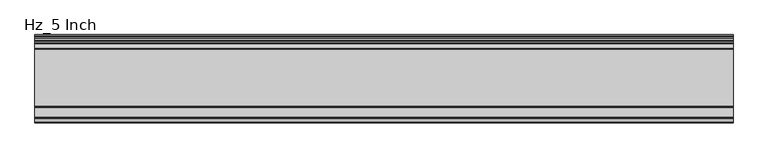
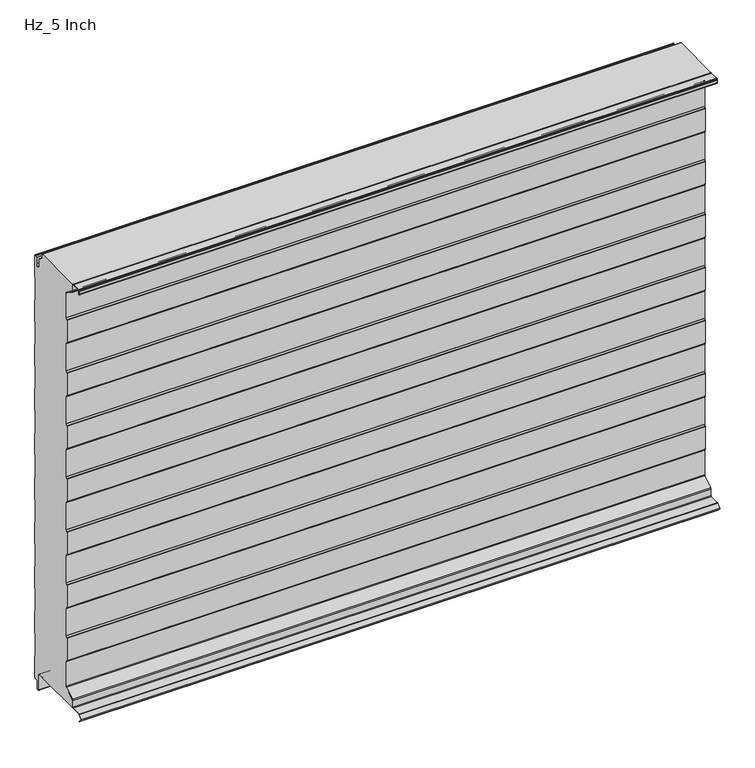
"""IFC4 building model written with IfcOpenShell, lengths in millimetres: plate geometry, KIP_R19_CP_KingSeam_Hz_Roof Panel : Hz_5 Inch."""

import ifcopenshell
import ifcopenshell.guid

model = None  # the IFC model being written
_history = None  # IfcOwnerHistory: only IFC2X3 demands one
_inside = {}  # id of a spatial element -> (the spatial element, [elements in it])
_under = {}  # id of a project, library or spatial element -> (it, [spatial elements below it])
_declared = {}  # id of a project -> (the project, [libraries it declares])
_typed = {}  # id of a type object -> (the type object, [elements of that type])
_made_of = {}  # id of a material, layer set ... -> (it, [elements and type objects made of it])


def new_model(schema):
    """Start an empty IFC model of exactly this schema.

    Asked for "IFC4X3", IfcOpenShell would pick the latest addendum, in which some entities
    have other attributes; the version numbers below select the first issue.
    IFC2X3 requires an IfcOwnerHistory on every rooted entity: one is made here for all.
    """
    global model, _history
    if schema == "IFC4X3":
        model = ifcopenshell.file(schema_version=(4, 3, 0, 0))
    else:
        model = ifcopenshell.file(schema=schema)
    _inside.clear()
    _under.clear()
    _declared.clear()
    _typed.clear()
    _made_of.clear()
    _history = None
    if model.schema == "IFC2X3":
        org = make("IfcOrganization", Name="unknown")
        user = make(
            "IfcPersonAndOrganization",
            ThePerson=make("IfcPerson", FamilyName="unknown"),
            TheOrganization=org,
        )
        app = make(
            "IfcApplication",
            ApplicationDeveloper=org,
            Version="unknown",
            ApplicationFullName="unknown",
            ApplicationIdentifier="unknown",
        )
        _history = make(
            "IfcOwnerHistory",
            OwningUser=user,
            OwningApplication=app,
            ChangeAction="ADDED",
            CreationDate=0,
        )
    return model


def make(cls, **values):
    """One entity of the class cls with the attributes given. An attribute that is None is left unset."""
    return model.create_entity(
        cls, **{name: value for name, value in values.items() if value is not None}
    )


def rooted(cls, **values):
    """An entity with a GlobalId (a new one), such as an element, a storey or a relation."""
    return make(cls, GlobalId=ifcopenshell.guid.new(), OwnerHistory=_history, **values)


def si_unit(unit_type, name, prefix=None):
    """IfcSIUnit, for example si_unit("LENGTHUNIT", "METRE", prefix="MILLI")."""
    return make("IfcSIUnit", UnitType=unit_type, Prefix=prefix, Name=name)


def assignment(units):
    """IfcUnitAssignment: the units of a project."""
    return None if units is None else make("IfcUnitAssignment", Units=units)


def point(xyz):
    """IfcCartesianPoint."""
    return None if xyz is None else make("IfcCartesianPoint", Coordinates=xyz)


def direction(xyz):
    """IfcDirection."""
    return None if xyz is None else make("IfcDirection", DirectionRatios=xyz)


def frame(location, z_axis=None, x_axis=None):
    """IfcAxis2Placement3D, a coordinate frame: its origin and axes. An axis left out is left unset."""
    return make(
        "IfcAxis2Placement3D",
        Location=point(location),
        Axis=direction(z_axis),
        RefDirection=direction(x_axis),
    )


def frame_2d(location, x_axis=None):
    """IfcAxis2Placement2D, a coordinate frame in the plane: its origin and x axis."""
    return make(
        "IfcAxis2Placement2D", Location=point(location), RefDirection=direction(x_axis)
    )


def origin():
    """The frame at (0, 0, 0) with its axes left unset."""
    return frame((0.0, 0.0, 0.0))


def place(relative_to, where):
    """IfcLocalPlacement: puts the frame where relative to a parent placement (None: the world)."""
    return make(
        "IfcLocalPlacement", PlacementRelTo=relative_to, RelativePlacement=where
    )


def context(
    kind, dimensions, precision=None, world=None, true_north=None, identifier=None
):
    """IfcGeometricRepresentationContext, for example the 3D "Model" context."""
    return make(
        "IfcGeometricRepresentationContext",
        ContextIdentifier=identifier,
        ContextType=kind,
        CoordinateSpaceDimension=dimensions,
        Precision=precision,
        WorldCoordinateSystem=world,
        TrueNorth=true_north,
    )


def project(units=None, contexts=None):
    """IfcProject with its units and contexts."""
    return rooted(
        "IfcProject",
        Name="project",
        RepresentationContexts=contexts,
        UnitsInContext=assignment(units),
    )


def spatial(cls, under=None, at=None, **own):
    """A site, building, storey or space (cls), placed at a placement, below another one or the project."""
    s = rooted(cls, ObjectPlacement=at, **own)
    if under is not None:
        _under.setdefault(under.id(), (under, []))[1].append(s)
    return s


def polyline(points):
    """IfcPolyline through the points."""
    return make("IfcPolyline", Points=[point(p) for p in points])


def circle_curve(where, radius):
    """IfcCircle in the frame where."""
    return make("IfcCircle", Position=where, Radius=radius)


def trimmed(basis, trim1, trim2, sense, master):
    """IfcTrimmedCurve: the piece of a basis curve between two trims."""
    return make(
        "IfcTrimmedCurve",
        BasisCurve=basis,
        Trim1=trim1,
        Trim2=trim2,
        SenseAgreement=sense,
        MasterRepresentation=master,
    )


def segment(curve, same_sense, transition):
    """IfcCompositeCurveSegment."""
    return make(
        "IfcCompositeCurveSegment",
        Transition=transition,
        SameSense=same_sense,
        ParentCurve=curve,
    )


def composite_curve(segments, self_intersect=None):
    """IfcCompositeCurve: segments joined end to end."""
    return make("IfcCompositeCurve", Segments=segments, SelfIntersect=self_intersect)


def outline(outer, holes=None, kind="AREA"):
    """IfcArbitraryClosedProfileDef: a profile drawn as a closed curve; with holes, ...WithVoids."""
    if holes is None:
        return make("IfcArbitraryClosedProfileDef", ProfileType=kind, OuterCurve=outer)
    return make(
        "IfcArbitraryProfileDefWithVoids",
        ProfileType=kind,
        OuterCurve=outer,
        InnerCurves=holes,
    )


def extrude(swept, where, along, depth):
    """IfcExtrudedAreaSolid: the profile swept, set in the frame where, extruded along a direction by depth."""
    return make(
        "IfcExtrudedAreaSolid",
        SweptArea=swept,
        Position=where,
        ExtrudedDirection=direction(along),
        Depth=depth,
    )


def shape(context_of_items, identifier, shape_type, items):
    """IfcShapeRepresentation: the items that make up one representation, for example the "Body"."""
    return make(
        "IfcShapeRepresentation",
        ContextOfItems=context_of_items,
        RepresentationIdentifier=identifier,
        RepresentationType=shape_type,
        Items=items,
    )


def source(mapping_origin, context_of_items, identifier, shape_type, items):
    """IfcRepresentationMap: a shape defined once, which mapped items show again and again."""
    return make(
        "IfcRepresentationMap",
        MappingOrigin=mapping_origin,
        MappedRepresentation=shape(context_of_items, identifier, shape_type, items),
    )


def transform(
    local_origin,
    x_axis=None,
    y_axis=None,
    z_axis=None,
    scale=None,
    scale2=None,
    scale3=None,
    uniform=True,
):
    """IfcCartesianTransformationOperator3D, or its non-uniform kind. x_axis, y_axis, z_axis: its Axis1, 2, 3."""
    if uniform:
        return make(
            "IfcCartesianTransformationOperator3D",
            Axis1=direction(x_axis),
            Axis2=direction(y_axis),
            LocalOrigin=point(local_origin),
            Scale=scale,
            Axis3=direction(z_axis),
        )
    return make(
        "IfcCartesianTransformationOperator3DnonUniform",
        Axis1=direction(x_axis),
        Axis2=direction(y_axis),
        LocalOrigin=point(local_origin),
        Scale=scale,
        Axis3=direction(z_axis),
        Scale2=scale2,
        Scale3=scale3,
    )


def mapped(mapping_source, mapping_target):
    """IfcMappedItem: shows the shape of a source again, moved by a transform."""
    return make(
        "IfcMappedItem", MappingSource=mapping_source, MappingTarget=mapping_target
    )


def made_of(thing, what):
    """Note that an element or type object is made of a material, layer set ...; save() writes the relation."""
    if what is not None:
        _made_of.setdefault(what.id(), (what, []))[1].append(thing)
    return thing


def element(
    cls,
    number,
    at=None,
    inside=None,
    cuts=None,
    type_object=None,
    material=None,
    context=None,
    identifier="Body",
    shape_type=None,
    held_by="IfcProductDefinitionShape",
    body=None,
    shapes=None,
    **own,
):
    """One element of the class cls, such as IfcWall. Its Tag is "e" and its number.

    at: its placement. inside: the storey or other place that contains it. cuts: it is an
    opening in that element (IfcRelVoidsElement). A single representation is given by context,
    identifier, shape_type and body (its items); several are given by shapes. held_by: the class
    of the entity that holds the representations. save() writes the other relations.
    """
    e = rooted(cls, Tag="e%d" % number, ObjectPlacement=at, **own)
    if body is not None:
        shapes = [shape(context, identifier, shape_type, body)]
    if shapes is not None:
        e.Representation = make(held_by, Representations=shapes)
    if inside is not None:
        _inside.setdefault(inside.id(), (inside, []))[1].append(e)
    if cuts is not None:
        rooted(
            "IfcRelVoidsElement", RelatingBuildingElement=cuts, RelatedOpeningElement=e
        )
    if type_object is not None:
        _typed.setdefault(type_object.id(), (type_object, []))[1].append(e)
    return made_of(e, material)


def aggregate(whole, parts):
    """IfcRelAggregates: a whole, such as a stair, and the parts it consists of."""
    return rooted("IfcRelAggregates", RelatingObject=whole, RelatedObjects=parts)


def save(model, path):
    """Write the relations noted so far, then the file.

    IfcRelAggregates (storeys below a building ...), IfcRelContainedInSpatialStructure (elements
    in a storey), IfcRelDefinesByType, IfcRelAssociatesMaterial and IfcRelDeclares: one each for
    every whole, place, type object, material and project.
    """
    for whole, parts in _under.values():
        aggregate(whole, parts)
    for where, things in _inside.values():
        rooted(
            "IfcRelContainedInSpatialStructure",
            RelatedElements=things,
            RelatingStructure=where,
        )
    for kind, things in _typed.values():
        rooted("IfcRelDefinesByType", RelatedObjects=things, RelatingType=kind)
    for what, things in _made_of.values():
        rooted("IfcRelAssociatesMaterial", RelatedObjects=things, RelatingMaterial=what)
    for by, libraries in _declared.values():
        rooted("IfcRelDeclares", RelatingContext=by, RelatedDefinitions=libraries)
    model.write(path)


def hz_5_inch_b71508c2(model_context):
    return source(origin(), model_context, "Body", "SweptSolid", [
        extrude(outline(composite_curve([segment(polyline([(-126.7158093, 535.7535265), (-124.2158809, 539.2132218), (-124.2158809, 603.7867783), (-126.715809, 607.2464732)]), True, "CONTINUOUS"), segment(trimmed(circle_curve(frame_2d((-125.5000003, 608.1249998)), 1.4999999), [point((-126.715809, 607.2464732))], [point((-127.0000002, 608.1249998))], False, "CARTESIAN"), True, "CONTINUOUS"), segment(polyline([(-127.0000002, 608.1249998), (-127.0000003, 661.8749998)]), True, "CONTINUOUS"), segment(trimmed(circle_curve(frame_2d((-125.5000002, 661.8749998)), 1.5), [point((-127.0000003, 661.8749998))], [point((-126.7158089, 662.7535266))], False, "CARTESIAN"), True, "CONTINUOUS"), segment(polyline([(-126.7158089, 662.7535266), (-124.2158807, 666.2132214), (-124.2158807, 730.7867783), (-126.715809, 734.246473)]), True, "CONTINUOUS"), segment(trimmed(circle_curve(frame_2d((-125.5000003, 735.1249998)), 1.5000001), [point((-126.715809, 734.246473))], [point((-127.0000004, 735.1249998))], False, "CARTESIAN"), True, "CONTINUOUS"), segment(polyline([(-127.0000004, 735.1249998), (-127.0000004, 788.8749998)]), True, "CONTINUOUS"), segment(trimmed(circle_curve(frame_2d((-125.5000005, 788.8749998)), 1.4999999), [point((-127.0000004, 788.8749998))], [point((-126.7158091, 789.7535265))], False, "CARTESIAN"), True, "CONTINUOUS"), segment(polyline([(-126.7158091, 789.7535265), (-124.2158803, 793.2132223), (-124.2158803, 857.7867782), (-126.7158086, 861.246473)]), True, "CONTINUOUS"), segment(trimmed(circle_curve(frame_2d((-125.4999999, 862.1249998)), 1.5000001), [point((-126.7158086, 861.246473))], [point((-127.0, 862.1249998))], False, "CARTESIAN"), True, "CONTINUOUS"), segment(polyline([(-127.0, 862.1249998), (-127.0, 915.8749998)]), True, "CONTINUOUS"), segment(trimmed(circle_curve(frame_2d((-125.5000001, 915.8749998)), 1.4999999), [point((-127.0, 915.8749998))], [point((-126.7158088, 916.7535264))], False, "CARTESIAN"), True, "CONTINUOUS"), segment(polyline([(-126.7158088, 916.7535264), (-124.2158808, 920.2132216), (-124.2158808, 979.387149)]), True, "CONTINUOUS"), segment(trimmed(circle_curve(frame_2d((-126.7158808, 979.387149)), 2.5), [point((-124.2158808, 979.387149))], [point((-125.3365754, 981.4722189))], True, "CARTESIAN"), True, "CONTINUOUS"), segment(polyline([(-125.3365754, 981.4722189), (-148.3193251, 996.6756573)]), True, "CONTINUOUS"), segment(trimmed(circle_curve(frame_2d((-147.2158808, 998.3437132)), 2.0), [point((-148.3193251, 996.6756573))], [point((-149.2158808, 998.3437132))], False, "CARTESIAN"), True, "CONTINUOUS"), segment(polyline([(-149.2158808, 998.3437132), (-149.2158808, 1013.8999998)]), True, "CONTINUOUS"), segment(trimmed(circle_curve(frame_2d((-151.3158808, 1013.8999998)), 2.1), [point((-149.2158808, 1013.8999998))], [point((-151.3158808, 1015.9999998))], True, "CARTESIAN"), True, "CONTINUOUS"), segment(polyline([(-151.3158808, 1015.9999998), (-31.9999994, 1015.9999998), (-31.9999994, 1015.1999999), (-30.7664368, 1015.1999999)]), True, "CONTINUOUS"), segment(trimmed(circle_curve(frame_2d((-30.7664368, 1014.1999999)), 1.0), [point((-30.7664368, 1015.1999999))], [point((-29.7664368, 1014.1999999))], False, "CARTESIAN"), True, "CONTINUOUS"), segment(polyline([(-29.7664368, 1014.1999999), (-29.7664368, 1004.6085617)]), True, "CONTINUOUS"), segment(trimmed(circle_curve(frame_2d((-27.7664368, 1004.6085617)), 2.0), [point((-29.7664368, 1004.6085617))], [point((-28.7691573, 1002.8780844))], True, "CARTESIAN"), True, "CONTINUOUS"), segment(polyline([(-28.7691573, 1002.8780844), (-18.9986392, 997.2165837)]), True, "CONTINUOUS"), segment(trimmed(circle_curve(frame_2d((-19.4999994, 996.351345)), 1.0), [point((-18.9986392, 997.2165837))], [point((-18.4999994, 996.351345))], False, "CARTESIAN"), True, "CONTINUOUS"), segment(polyline([(-18.4999994, 996.351345), (-18.4999994, 979.25)]), True, "CONTINUOUS"), segment(trimmed(circle_curve(frame_2d((-13.7499994, 979.25)), 4.75), [point((-18.4999994, 979.25))], [point((-13.7499994, 974.5))], True, "CARTESIAN"), True, "CONTINUOUS"), segment(polyline([(-13.7499994, 974.5), (-12.2499994, 974.5)]), True, "CONTINUOUS"), segment(trimmed(circle_curve(frame_2d((-12.2499994, 979.25)), 4.75), [point((-12.2499994, 974.5))], [point((-7.4999994, 979.25))], True, "CARTESIAN"), True, "CONTINUOUS"), segment(polyline([(-7.4999994, 979.25), (-7.4999994, 994.2157998)]), True, "CONTINUOUS"), segment(trimmed(circle_curve(frame_2d((-4.9999994, 994.2157998)), 2.5), [point((-7.4999994, 994.2157998))], [point((-4.9999994, 996.7157998))], False, "CARTESIAN"), True, "CONTINUOUS"), segment(polyline([(-4.9999994, 996.7157998), (-2.9999994, 996.7157998)]), True, "CONTINUOUS"), segment(trimmed(circle_curve(frame_2d((-2.8161919, 994.6595504)), 2.0644483), [point((-2.9999994, 996.7157998))], [point((-0.7999994, 994.2157998))], False, "CARTESIAN"), True, "CONTINUOUS"), segment(polyline([(-0.7999994, 994.2157998), (-0.7999994, 944.4584772)]), True, "CONTINUOUS"), segment(trimmed(circle_curve(frame_2d((-3.1999994, 944.4584772)), 2.4), [point((-0.7999994, 944.4584772))], [point((-0.9968117, 943.5066559))], False, "CARTESIAN"), True, "CONTINUOUS"), segment(polyline([(-0.9968117, 943.5066559), (-2.0293826, 941.1165567)]), True, "CONTINUOUS"), segment(trimmed(circle_curve(frame_2d((1.0000006, 939.8078024)), 3.3), [point((-2.0293826, 941.1165567))], [point((-2.2999994, 939.8078024))], True, "CARTESIAN"), True, "CONTINUOUS"), segment(polyline([(-2.2999994, 939.8078024), (-2.2999994, 891.4237972)]), True, "CONTINUOUS"), segment(trimmed(circle_curve(frame_2d((1.0000006, 891.4237972)), 3.3), [point((-2.2999994, 891.4237972))], [point((-2.0293826, 890.1150429))], True, "CARTESIAN"), True, "CONTINUOUS"), segment(polyline([(-2.0293826, 890.1150429), (-0.9968117, 887.7249437)]), True, "CONTINUOUS"), segment(trimmed(circle_curve(frame_2d((-3.1999994, 886.7731223)), 2.4), [point((-0.9968117, 887.7249437))], [point((-0.7999994, 886.7731223))], False, "CARTESIAN"), True, "CONTINUOUS"), segment(polyline([(-0.7999994, 886.7731223), (-0.7999994, 837.8584772)]), True, "CONTINUOUS"), segment(trimmed(circle_curve(frame_2d((-3.1999994, 837.8584772)), 2.4), [point((-0.7999994, 837.8584772))], [point((-0.9968117, 836.9066559))], False, "CARTESIAN"), True, "CONTINUOUS"), segment(polyline([(-0.9968117, 836.9066559), (-2.0293826, 834.5165567)]), True, "CONTINUOUS"), segment(trimmed(circle_curve(frame_2d((1.0000006, 833.2078024)), 3.3), [point((-2.0293826, 834.5165567))], [point((-2.2999994, 833.2078024))], True, "CARTESIAN"), True, "CONTINUOUS"), segment(polyline([(-2.2999994, 833.2078024), (-2.2999994, 784.8237972)]), True, "CONTINUOUS"), segment(trimmed(circle_curve(frame_2d((1.0000006, 784.8237972)), 3.3), [point((-2.2999994, 784.8237972))], [point((-2.0293826, 783.5150429))], True, "CARTESIAN"), True, "CONTINUOUS"), segment(polyline([(-2.0293826, 783.5150429), (-0.9968117, 781.1249437)]), True, "CONTINUOUS"), segment(trimmed(circle_curve(frame_2d((-3.1999994, 780.1731223)), 2.4), [point((-0.9968117, 781.1249437))], [point((-0.7999994, 780.1731223))], False, "CARTESIAN"), True, "CONTINUOUS"), segment(polyline([(-0.7999994, 780.1731223), (-0.7999994, 731.2584772)]), True, "CONTINUOUS"), segment(trimmed(circle_curve(frame_2d((-3.1999994, 731.2584772)), 2.4), [point((-0.7999994, 731.2584772))], [point((-0.9968117, 730.3066559))], False, "CARTESIAN"), True, "CONTINUOUS"), segment(polyline([(-0.9968117, 730.3066559), (-2.0293826, 727.9165567)]), True, "CONTINUOUS"), segment(trimmed(circle_curve(frame_2d((1.0000006, 726.6078024)), 3.3), [point((-2.0293826, 727.9165567))], [point((-2.2999994, 726.6078024))], True, "CARTESIAN"), True, "CONTINUOUS"), segment(polyline([(-2.2999994, 726.6078024), (-2.2999994, 678.2237972)]), True, "CONTINUOUS"), segment(trimmed(circle_curve(frame_2d((1.0000006, 678.2237972)), 3.3), [point((-2.2999994, 678.2237972))], [point((-2.0293826, 676.9150429))], True, "CARTESIAN"), True, "CONTINUOUS"), segment(polyline([(-2.0293826, 676.9150429), (-0.9968117, 674.5249437)]), True, "CONTINUOUS"), segment(trimmed(circle_curve(frame_2d((-3.1999994, 673.5731223)), 2.4), [point((-0.9968117, 674.5249437))], [point((-0.7999994, 673.5731223))], False, "CARTESIAN"), True, "CONTINUOUS"), segment(polyline([(-0.7999994, 673.5731223), (-0.7999994, 624.6584772)]), True, "CONTINUOUS"), segment(trimmed(circle_curve(frame_2d((-3.1999994, 624.6584772)), 2.4), [point((-0.7999994, 624.6584772))], [point((-0.9968117, 623.7066559))], False, "CARTESIAN"), True, "CONTINUOUS"), segment(polyline([(-0.9968117, 623.7066559), (-2.0293826, 621.3165567)]), True, "CONTINUOUS"), segment(trimmed(circle_curve(frame_2d((1.0000006, 620.0078024)), 3.3), [point((-2.0293826, 621.3165567))], [point((-2.2999994, 620.0078024))], True, "CARTESIAN"), True, "CONTINUOUS"), segment(polyline([(-2.2999994, 620.0078024), (-2.2999994, 571.6237972)]), True, "CONTINUOUS"), segment(trimmed(circle_curve(frame_2d((1.0000006, 571.6237972)), 3.3), [point((-2.2999994, 571.6237972))], [point((-2.0293826, 570.3150429))], True, "CARTESIAN"), True, "CONTINUOUS"), segment(polyline([(-2.0293826, 570.3150429), (-0.9968117, 567.9249437)]), True, "CONTINUOUS"), segment(trimmed(circle_curve(frame_2d((-3.1999994, 566.9731223)), 2.4), [point((-0.9968117, 567.9249437))], [point((-0.7999994, 566.9731223))], False, "CARTESIAN"), True, "CONTINUOUS"), segment(polyline([(-0.7999994, 566.9731223), (-0.7999994, 518.0584772)]), True, "CONTINUOUS"), segment(trimmed(circle_curve(frame_2d((-3.1999994, 518.0584772)), 2.4), [point((-0.7999994, 518.0584772))], [point((-0.9968117, 517.1066559))], False, "CARTESIAN"), True, "CONTINUOUS"), segment(polyline([(-0.9968117, 517.1066559), (-2.0293826, 514.7165567)]), True, "CONTINUOUS"), segment(trimmed(circle_curve(frame_2d((1.0000006, 513.4078024)), 3.3), [point((-2.0293826, 514.7165567))], [point((-2.2999994, 513.4078024))], True, "CARTESIAN"), True, "CONTINUOUS"), segment(polyline([(-2.2999994, 513.4078024), (-2.2999994, 465.0237972)]), True, "CONTINUOUS"), segment(trimmed(circle_curve(frame_2d((1.0000006, 465.0237972)), 3.3), [point((-2.2999994, 465.0237972))], [point((-2.0293826, 463.7150429))], True, "CARTESIAN"), True, "CONTINUOUS"), segment(polyline([(-2.0293826, 463.7150429), (-0.9968117, 461.3249437)]), True, "CONTINUOUS"), segment(trimmed(circle_curve(frame_2d((-3.1999994, 460.3731223)), 2.4), [point((-0.9968117, 461.3249437))], [point((-0.7999994, 460.3731223))], False, "CARTESIAN"), True, "CONTINUOUS"), segment(polyline([(-0.7999994, 460.3731223), (-0.7999994, 411.4584772)]), True, "CONTINUOUS"), segment(trimmed(circle_curve(frame_2d((-3.1999994, 411.4584772)), 2.4), [point((-0.7999994, 411.4584772))], [point((-0.9968117, 410.5066559))], False, "CARTESIAN"), True, "CONTINUOUS"), segment(polyline([(-0.9968117, 410.5066559), (-2.0293826, 408.1165567)]), True, "CONTINUOUS"), segment(trimmed(circle_curve(frame_2d((1.0000006, 406.8078024)), 3.3), [point((-2.0293826, 408.1165567))], [point((-2.2999994, 406.8078024))], True, "CARTESIAN"), True, "CONTINUOUS"), segment(polyline([(-2.2999994, 406.8078024), (-2.2999994, 358.4237972)]), True, "CONTINUOUS"), segment(trimmed(circle_curve(frame_2d((1.0000006, 358.4237972)), 3.3), [point((-2.2999994, 358.4237972))], [point((-2.0293826, 357.1150429))], True, "CARTESIAN"), True, "CONTINUOUS"), segment(polyline([(-2.0293826, 357.1150429), (-0.9968117, 354.7249437)]), True, "CONTINUOUS"), segment(trimmed(circle_curve(frame_2d((-3.1999994, 353.7731223)), 2.4), [point((-0.9968117, 354.7249437))], [point((-0.7999994, 353.7731223))], False, "CARTESIAN"), True, "CONTINUOUS"), segment(polyline([(-0.7999994, 353.7731223), (-0.7999994, 304.8584772)]), True, "CONTINUOUS"), segment(trimmed(circle_curve(frame_2d((-3.1999994, 304.8584772)), 2.4), [point((-0.7999994, 304.8584772))], [point((-0.9968117, 303.9066559))], False, "CARTESIAN"), True, "CONTINUOUS"), segment(polyline([(-0.9968117, 303.9066559), (-2.0293826, 301.5165567)]), True, "CONTINUOUS"), segment(trimmed(circle_curve(frame_2d((1.0000006, 300.2078024)), 3.3), [point((-2.0293826, 301.5165567))], [point((-2.2999994, 300.2078024))], True, "CARTESIAN"), True, "CONTINUOUS"), segment(polyline([(-2.2999994, 300.2078024), (-2.2999994, 251.8237972)]), True, "CONTINUOUS"), segment(trimmed(circle_curve(frame_2d((1.0000006, 251.8237972)), 3.3), [point((-2.2999994, 251.8237972))], [point((-2.0293826, 250.5150429))], True, "CARTESIAN"), True, "CONTINUOUS"), segment(polyline([(-2.0293826, 250.5150429), (-0.9968117, 248.1249437)]), True, "CONTINUOUS"), segment(trimmed(circle_curve(frame_2d((-3.1999994, 247.1731223)), 2.4), [point((-0.9968117, 248.1249437))], [point((-0.7999994, 247.1731223))], False, "CARTESIAN"), True, "CONTINUOUS"), segment(polyline([(-0.7999994, 247.1731223), (-0.7999994, 198.2584772)]), True, "CONTINUOUS"), segment(trimmed(circle_curve(frame_2d((-3.1999994, 198.2584772)), 2.4), [point((-0.7999994, 198.2584772))], [point((-0.9968117, 197.3066559))], False, "CARTESIAN"), True, "CONTINUOUS"), segment(polyline([(-0.9968117, 197.3066559), (-2.0293826, 194.9165567)]), True, "CONTINUOUS"), segment(trimmed(circle_curve(frame_2d((1.0000006, 193.6078024)), 3.3), [point((-2.0293826, 194.9165567))], [point((-2.2999994, 193.6078024))], True, "CARTESIAN"), True, "CONTINUOUS"), segment(polyline([(-2.2999994, 193.6078024), (-2.2999994, 145.2237972)]), True, "CONTINUOUS"), segment(trimmed(circle_curve(frame_2d((1.0000006, 145.2237972)), 3.3), [point((-2.2999994, 145.2237972))], [point((-2.0293826, 143.9150429))], True, "CARTESIAN"), True, "CONTINUOUS"), segment(polyline([(-2.0293826, 143.9150429), (-0.9968117, 141.5249437)]), True, "CONTINUOUS"), segment(trimmed(circle_curve(frame_2d((-3.1999994, 140.5731223)), 2.4), [point((-0.9968117, 141.5249437))], [point((-0.7999994, 140.5731223))], False, "CARTESIAN"), True, "CONTINUOUS"), segment(polyline([(-0.7999994, 140.5731223), (-0.7999994, 91.6584772)]), True, "CONTINUOUS"), segment(trimmed(circle_curve(frame_2d((-3.1999994, 91.6584772)), 2.4), [point((-0.7999994, 91.6584772))], [point((-0.9968117, 90.7066559))], False, "CARTESIAN"), True, "CONTINUOUS"), segment(polyline([(-0.9968117, 90.7066559), (-2.0293826, 88.3165567)]), True, "CONTINUOUS"), segment(trimmed(circle_curve(frame_2d((1.0000006, 87.0078024)), 3.3), [point((-2.0293826, 88.3165567))], [point((-2.2999994, 87.0078024))], True, "CARTESIAN"), True, "CONTINUOUS"), segment(polyline([(-2.2999994, 87.0078024), (-2.2999994, 38.6237972)]), True, "CONTINUOUS"), segment(trimmed(circle_curve(frame_2d((1.0000006, 38.6237972)), 3.3), [point((-2.2999994, 38.6237972))], [point((-2.0293826, 37.3150429))], True, "CARTESIAN"), True, "CONTINUOUS"), segment(polyline([(-2.0293826, 37.3150429), (-0.9968117, 34.9249437)]), True, "CONTINUOUS"), segment(trimmed(circle_curve(frame_2d((-3.1999994, 33.9731223)), 2.4), [point((-0.9968117, 34.9249437))], [point((-0.7999994, 33.9731223))], False, "CARTESIAN"), True, "CONTINUOUS"), segment(polyline([(-0.7999994, 33.9731223), (-0.7999994, -15.7842002)]), True, "CONTINUOUS"), segment(trimmed(circle_curve(frame_2d((-2.8161919, -16.2279508)), 2.0644483), [point((-0.7999994, -15.7842002))], [point((-2.9999994, -18.2842002))], False, "CARTESIAN"), True, "CONTINUOUS"), segment(polyline([(-2.9999994, -18.2842002), (-6.4999994, -18.2842002)]), True, "CONTINUOUS"), segment(trimmed(circle_curve(frame_2d((-6.4999994, -21.2842002)), 3.0), [point((-6.4999994, -18.2842002))], [point((-9.4999994, -21.2842002))], True, "CARTESIAN"), True, "CONTINUOUS"), segment(polyline([(-9.4999994, -21.2842002), (-9.4999994, -37.0)]), True, "CONTINUOUS"), segment(trimmed(circle_curve(frame_2d((-11.9999994, -37.0)), 2.5), [point((-9.4999994, -37.0))], [point((-11.9999994, -39.5))], False, "CARTESIAN"), True, "CONTINUOUS"), segment(polyline([(-11.9999994, -39.5), (-13.9999994, -39.5)]), True, "CONTINUOUS"), segment(trimmed(circle_curve(frame_2d((-13.9999994, -37.0)), 2.5), [point((-13.9999994, -39.5))], [point((-16.4999994, -37.0))], False, "CARTESIAN"), True, "CONTINUOUS"), segment(polyline([(-16.4999994, -37.0), (-16.4999994, -1.5)]), True, "CONTINUOUS"), segment(trimmed(circle_curve(frame_2d((-18.4999994, -1.5)), 2.0), [point((-16.4999994, -1.5))], [point((-18.4999994, 0.5))], True, "CARTESIAN"), True, "CONTINUOUS"), segment(polyline([(-18.4999994, 0.5), (-29.6999994, 0.5)]), True, "CONTINUOUS"), segment(trimmed(circle_curve(frame_2d((-29.6999994, 2.0)), 1.5), [point((-29.6999994, 0.5))], [point((-31.1999994, 2.0))], False, "CARTESIAN"), True, "CONTINUOUS"), segment(polyline([(-31.1999994, 2.0), (-31.1999994, 9.5), (-31.9999994, 9.5), (-31.9999994, 2.0)]), True, "CONTINUOUS"), segment(trimmed(circle_curve(frame_2d((-29.9999994, 2.0)), 2.0), [point((-31.9999994, 2.0))], [point((-29.9999994, 0.0))], True, "CARTESIAN"), True, "CONTINUOUS"), segment(polyline([(-29.9999994, 0.0), (-151.3158809, 0.0)]), True, "CONTINUOUS"), segment(trimmed(circle_curve(frame_2d((-151.3158809, 2.0999999)), 2.0999999), [point((-151.3158809, 0.0))], [point((-149.2158811, 2.0999999))], True, "CARTESIAN"), True, "CONTINUOUS"), segment(polyline([(-149.2158811, 2.0999999), (-149.2158811, 17.6562865)]), True, "CONTINUOUS"), segment(trimmed(circle_curve(frame_2d((-147.2158811, 17.6562865)), 2.0), [point((-149.2158811, 17.6562865))], [point((-148.3193254, 19.3243424))], False, "CARTESIAN"), True, "CONTINUOUS"), segment(polyline([(-148.3193254, 19.3243424), (-125.3365754, 34.5277806)]), True, "CONTINUOUS"), segment(trimmed(circle_curve(frame_2d((-126.7158809, 36.6128507)), 2.5000002), [point((-125.3365754, 34.5277806))], [point((-124.2158807, 36.6128507))], True, "CARTESIAN"), True, "CONTINUOUS"), segment(polyline([(-124.2158807, 36.6128507), (-124.2158807, 95.7867783), (-126.715809, 99.2464731)]), True, "CONTINUOUS"), segment(trimmed(circle_curve(frame_2d((-125.5000002, 100.1249999)), 1.5000002), [point((-126.715809, 99.2464731))], [point((-127.0000003, 100.1249999))], False, "CARTESIAN"), True, "CONTINUOUS"), segment(polyline([(-127.0000003, 100.1249999), (-127.0000003, 153.8749999)]), True, "CONTINUOUS"), segment(trimmed(circle_curve(frame_2d((-125.5000001, 153.8749999)), 1.5000002), [point((-127.0000003, 153.8749999))], [point((-126.715809, 154.7535268))], False, "CARTESIAN"), True, "CONTINUOUS"), segment(polyline([(-126.715809, 154.7535268), (-124.2158807, 158.2132214), (-124.2158807, 222.7867783), (-126.715809, 226.2464731)]), True, "CONTINUOUS"), segment(trimmed(circle_curve(frame_2d((-125.5000003, 227.1249999)), 1.5000001), [point((-126.715809, 226.2464731))], [point((-127.0000004, 227.1249999))], False, "CARTESIAN"), True, "CONTINUOUS"), segment(polyline([(-127.0000004, 227.1249999), (-127.0000004, 280.8749999)]), True, "CONTINUOUS"), segment(trimmed(circle_curve(frame_2d((-125.5000006, 280.8749999)), 1.4999997), [point((-127.0000004, 280.8749999))], [point((-126.7158092, 281.7535264))], False, "CARTESIAN"), True, "CONTINUOUS"), segment(polyline([(-126.7158092, 281.7535264), (-124.2158809, 285.2132219), (-124.2158809, 349.7867783), (-126.7158092, 353.246473)]), True, "CONTINUOUS"), segment(trimmed(circle_curve(frame_2d((-125.5000005, 354.1249999)), 1.5000001), [point((-126.7158092, 353.246473))], [point((-127.0000006, 354.1249999))], False, "CARTESIAN"), True, "CONTINUOUS"), segment(polyline([(-127.0000006, 354.1249999), (-127.0000006, 407.8749998)]), True, "CONTINUOUS"), segment(trimmed(circle_curve(frame_2d((-125.5000006, 407.8749998)), 1.4999999), [point((-127.0000006, 407.8749998))], [point((-126.7158093, 408.7535265))], False, "CARTESIAN"), True, "CONTINUOUS"), segment(polyline([(-126.7158093, 408.7535265), (-124.2158809, 412.2132218), (-124.2158809, 476.7867783), (-126.7158092, 480.246473)]), True, "CONTINUOUS"), segment(trimmed(circle_curve(frame_2d((-125.5000005, 481.1249999)), 1.5000001), [point((-126.7158092, 480.246473))], [point((-127.0000006, 481.1249999))], False, "CARTESIAN"), True, "CONTINUOUS"), segment(polyline([(-127.0000006, 481.1249999), (-127.0000006, 534.8749998)]), True, "CONTINUOUS"), segment(trimmed(circle_curve(frame_2d((-125.5000006, 534.8749998)), 1.4999999), [point((-127.0000006, 534.8749998))], [point((-126.7158093, 535.7535265))], False, "CARTESIAN"), True, "CONTINUOUS")], self_intersect=False)), frame((-723.9042608, 0.0, 0.0), z_axis=(1.0, 0.0, 0.0), x_axis=(0.0, 1.0, 0.0)), (0.0, 0.0, 1.0), 1447.8085217),
        extrude(outline(composite_curve([segment(polyline([(-127.2158084, 154.7942705), (-124.715881, 158.253964), (-124.715881, 222.8275218), (-127.215809, 226.287217)]), True, "CONTINUOUS"), segment(trimmed(circle_curve(frame_2d((-126.0000005, 227.1657434)), 1.4999996), [point((-127.215809, 226.287217))], [point((-127.4999998, 227.1667148))], False, "CARTESIAN"), True, "CONTINUOUS"), segment(polyline([(-127.4999998, 227.1667148), (-127.4999998, 280.9157434)]), True, "CONTINUOUS"), segment(trimmed(circle_curve(frame_2d((-125.9999998, 280.9157434)), 1.5), [point((-127.4999998, 280.9157434))], [point((-127.2158085, 281.7942702))], False, "CARTESIAN"), True, "CONTINUOUS"), segment(polyline([(-127.2158085, 281.7942702), (-124.7158804, 285.2539647), (-124.7158804, 349.8275216), (-127.2158085, 353.2872165)]), True, "CONTINUOUS"), segment(trimmed(circle_curve(frame_2d((-125.9999998, 354.1657432)), 1.4999999), [point((-127.2158085, 353.2872165))], [point((-127.4999994, 354.1667146))], False, "CARTESIAN"), True, "CONTINUOUS"), segment(polyline([(-127.4999994, 354.1667146), (-127.4999994, 407.9157432)]), True, "CONTINUOUS"), segment(trimmed(circle_curve(frame_2d((-125.9999995, 407.9157432)), 1.4999999), [point((-127.4999994, 407.9157432))], [point((-127.2158082, 408.7942699))], False, "CARTESIAN"), True, "CONTINUOUS"), segment(polyline([(-127.2158082, 408.7942699), (-124.7158804, 412.2539643), (-124.7158804, 476.8275216), (-127.2158085, 480.2872164)]), True, "CONTINUOUS"), segment(trimmed(circle_curve(frame_2d((-125.9999998, 481.1657432)), 1.5), [point((-127.2158085, 480.2872164))], [point((-127.4999995, 481.1667146))], False, "CARTESIAN"), True, "CONTINUOUS"), segment(polyline([(-127.4999995, 481.1667146), (-127.4999995, 534.9157431)]), True, "CONTINUOUS"), segment(trimmed(circle_curve(frame_2d((-125.9999995, 534.9157431)), 1.5), [point((-127.4999995, 534.9157431))], [point((-127.2158082, 535.7942699))], False, "CARTESIAN"), True, "CONTINUOUS"), segment(polyline([(-127.2158082, 535.7942699), (-124.7158804, 539.2539643), (-124.7158804, 603.8275216), (-127.2158085, 607.2872164)]), True, "CONTINUOUS"), segment(trimmed(circle_curve(frame_2d((-125.9999998, 608.1657431)), 1.5), [point((-127.2158085, 607.2872164))], [point((-127.4999995, 608.1667146))], False, "CARTESIAN"), True, "CONTINUOUS"), segment(polyline([(-127.4999995, 608.1667146), (-127.4999995, 661.9157431)]), True, "CONTINUOUS"), segment(trimmed(circle_curve(frame_2d((-125.9999995, 661.9157431)), 1.5), [point((-127.4999995, 661.9157431))], [point((-127.2158082, 662.7942699))], False, "CARTESIAN"), True, "CONTINUOUS"), segment(polyline([(-127.2158082, 662.7942699), (-124.7158804, 666.2539641), (-124.7158804, 730.8275214), (-127.2158087, 734.2872159)]), True, "CONTINUOUS"), segment(trimmed(circle_curve(frame_2d((-125.9999998, 735.1657429)), 1.5000003), [point((-127.2158087, 734.2872159))], [point((-127.4999999, 735.1667144))], False, "CARTESIAN"), True, "CONTINUOUS"), segment(polyline([(-127.4999999, 735.1667144), (-127.4999999, 788.915743)]), True, "CONTINUOUS"), segment(trimmed(circle_curve(frame_2d((-125.9999998, 788.915743)), 1.5), [point((-127.4999999, 788.915743))], [point((-127.2158085, 789.7942697))], False, "CARTESIAN"), True, "CONTINUOUS"), segment(polyline([(-127.2158085, 789.7942697), (-124.7158804, 793.2539644), (-124.7158804, 857.8275212), (-127.2158085, 861.2872162)]), True, "CONTINUOUS"), segment(trimmed(circle_curve(frame_2d((-125.9999999, 862.1657428)), 1.4999999), [point((-127.2158085, 861.2872162))], [point((-127.4999995, 862.1667142))], False, "CARTESIAN"), True, "CONTINUOUS"), segment(polyline([(-127.4999995, 862.1667142), (-127.4999995, 915.9157427)]), True, "CONTINUOUS"), segment(trimmed(circle_curve(frame_2d((-125.9999994, 915.9157427)), 1.5000001), [point((-127.4999995, 915.9157427))], [point((-127.2158081, 916.7942695))], False, "CARTESIAN"), True, "CONTINUOUS"), segment(polyline([(-127.2158081, 916.7942695), (-124.7158806, 920.2539634), (-124.7158806, 979.4278919)]), True, "CONTINUOUS"), segment(trimmed(circle_curve(frame_2d((-126.7158804, 979.4278919)), 1.9999997), [point((-124.7158806, 979.4278919))], [point((-125.6124361, 981.0959476))], True, "CARTESIAN"), True, "CONTINUOUS"), segment(polyline([(-125.6124361, 981.0959476), (-148.5951861, 996.2993863)]), True, "CONTINUOUS"), segment(trimmed(circle_curve(frame_2d((-147.2158807, 998.3844561)), 2.4999999), [point((-148.5951861, 996.2993863))], [point((-149.7158806, 998.3844561))], False, "CARTESIAN"), True, "CONTINUOUS"), segment(polyline([(-149.7158806, 998.3844561), (-149.7158806, 1013.9407427)]), True, "CONTINUOUS"), segment(trimmed(circle_curve(frame_2d((-151.3158806, 1013.9407427)), 1.6), [point((-149.7158806, 1013.9407427))], [point((-151.3158806, 1015.5407427))], True, "CARTESIAN"), True, "CONTINUOUS"), segment(polyline([(-151.3158806, 1015.5407427), (-172.1669597, 1015.5407427)]), True, "CONTINUOUS"), segment(trimmed(circle_curve(frame_2d((-172.1669597, 1014.3507427)), 1.19), [point((-172.1669597, 1015.5407427))], [point((-173.0084168, 1015.1921998))], True, "CARTESIAN"), True, "CONTINUOUS"), segment(polyline([(-173.0084168, 1015.1921998), (-174.0184377, 1014.1821788)]), True, "CONTINUOUS"), segment(trimmed(circle_curve(frame_2d((-173.1769807, 1013.3407218)), 1.19), [point((-174.0184377, 1014.1821788))], [point((-174.3669807, 1013.3407218))], True, "CARTESIAN"), True, "CONTINUOUS"), segment(polyline([(-174.3669807, 1013.3407218), (-174.3669807, 1006.6107427)]), True, "CONTINUOUS"), segment(trimmed(circle_curve(frame_2d((-173.9669807, 1006.6107427)), 0.4), [point((-174.3669807, 1006.6107427))], [point((-173.5669807, 1006.6107427))], True, "CARTESIAN"), True, "CONTINUOUS"), segment(polyline([(-173.5669807, 1006.6107427), (-173.5669807, 1013.3407218), (-172.7669807, 1013.3407218), (-172.7669807, 1006.6107427)]), True, "CONTINUOUS"), segment(trimmed(circle_curve(frame_2d((-173.8169807, 1006.6107427)), 1.05), [point((-172.7669807, 1006.6107427))], [point((-174.8669807, 1006.6107427))], False, "CARTESIAN"), True, "CONTINUOUS"), segment(polyline([(-174.8669807, 1006.6107427), (-174.8669807, 1013.3407218)]), True, "CONTINUOUS"), segment(trimmed(circle_curve(frame_2d((-173.1769807, 1013.3407218)), 1.69), [point((-174.8669807, 1013.3407218))], [point((-174.371991, 1014.5357324))], False, "CARTESIAN"), True, "CONTINUOUS"), segment(polyline([(-174.371991, 1014.5357324), (-173.36197, 1015.5457532)]), True, "CONTINUOUS"), segment(trimmed(circle_curve(frame_2d((-172.1669597, 1014.3507427)), 1.6899998), [point((-173.36197, 1015.5457532))], [point((-172.1669597, 1016.0407425))], False, "CARTESIAN"), True, "CONTINUOUS"), segment(polyline([(-172.1669597, 1016.0407425), (-151.3158805, 1016.0407425)]), True, "CONTINUOUS"), segment(trimmed(circle_curve(frame_2d((-151.3158805, 1013.9407427)), 2.0999998), [point((-151.3158805, 1016.0407425))], [point((-149.2158807, 1013.9407427))], False, "CARTESIAN"), True, "CONTINUOUS"), segment(polyline([(-149.2158807, 1013.9407427), (-149.2158807, 998.3844561)]), True, "CONTINUOUS"), segment(trimmed(circle_curve(frame_2d((-147.2158807, 998.3844561)), 2.0), [point((-149.2158807, 998.3844561))], [point((-148.319325, 996.7164001))], True, "CARTESIAN"), True, "CONTINUOUS"), segment(polyline([(-148.319325, 996.7164001), (-125.3365749, 981.5129618)]), True, "CONTINUOUS"), segment(trimmed(circle_curve(frame_2d((-126.7158804, 979.4278919)), 2.5), [point((-125.3365749, 981.5129618))], [point((-124.2158803, 979.4278919))], False, "CARTESIAN"), True, "CONTINUOUS"), segment(polyline([(-124.2158803, 979.4278919), (-124.2158803, 920.2539643), (-126.7158086, 916.7942696)]), True, "CONTINUOUS"), segment(trimmed(circle_curve(frame_2d((-125.4999998, 915.9157427)), 1.5000002), [point((-126.7158086, 916.7942696))], [point((-126.9999999, 915.9157427))], True, "CARTESIAN"), True, "CONTINUOUS"), segment(polyline([(-126.9999999, 915.9157427), (-126.9999999, 862.1657428)]), True, "CONTINUOUS"), segment(trimmed(circle_curve(frame_2d((-125.4999999, 862.1657428)), 1.5), [point((-126.9999999, 862.1657428))], [point((-126.7158086, 861.287216))], True, "CARTESIAN"), True, "CONTINUOUS"), segment(polyline([(-126.7158086, 861.287216), (-124.2158803, 857.8275213), (-124.2158803, 793.2539644), (-126.7158087, 789.7942698)]), True, "CONTINUOUS"), segment(trimmed(circle_curve(frame_2d((-125.5000001, 788.915743)), 1.5), [point((-126.7158087, 789.7942698))], [point((-127.0000001, 788.915743))], True, "CARTESIAN"), True, "CONTINUOUS"), segment(polyline([(-127.0000001, 788.915743), (-127.0000001, 735.165743)]), True, "CONTINUOUS"), segment(trimmed(circle_curve(frame_2d((-125.5000001, 735.165743)), 1.5), [point((-127.0000001, 735.165743))], [point((-126.7158088, 734.2872162))], True, "CARTESIAN"), True, "CONTINUOUS"), segment(polyline([(-126.7158088, 734.2872162), (-124.2158803, 730.827521), (-124.2158803, 666.2539645), (-126.7158086, 662.7942699)]), True, "CONTINUOUS"), segment(trimmed(circle_curve(frame_2d((-125.4999999, 661.9157431)), 1.5), [point((-126.7158086, 662.7942699))], [point((-126.9999999, 661.9157431))], True, "CARTESIAN"), True, "CONTINUOUS"), segment(polyline([(-126.9999999, 661.9157431), (-126.9999999, 608.1657431)]), True, "CONTINUOUS"), segment(trimmed(circle_curve(frame_2d((-125.5000001, 608.1657431)), 1.4999998), [point((-126.9999999, 608.1657431))], [point((-126.7158087, 607.2872166))], True, "CARTESIAN"), True, "CONTINUOUS"), segment(polyline([(-126.7158087, 607.2872166), (-124.2158803, 603.8275211), (-124.2158803, 539.2539647), (-126.7158086, 535.79427)]), True, "CONTINUOUS"), segment(trimmed(circle_curve(frame_2d((-125.4999999, 534.9157431)), 1.5000001), [point((-126.7158086, 535.79427))], [point((-127.0, 534.9157431))], True, "CARTESIAN"), True, "CONTINUOUS"), segment(polyline([(-127.0, 534.9157431), (-127.0, 481.1657432)]), True, "CONTINUOUS"), segment(trimmed(circle_curve(frame_2d((-125.5000001, 481.1657432)), 1.4999999), [point((-127.0, 481.1657432))], [point((-126.7158087, 480.2872165))], True, "CARTESIAN"), True, "CONTINUOUS"), segment(polyline([(-126.7158087, 480.2872165), (-124.2158803, 476.8275212), (-124.2158803, 412.2539647), (-126.7158084, 408.7942698)]), True, "CONTINUOUS"), segment(trimmed(circle_curve(frame_2d((-125.4999998, 407.9157432)), 1.4999999), [point((-126.7158084, 408.7942698))], [point((-126.9999997, 407.9157432))], True, "CARTESIAN"), True, "CONTINUOUS"), segment(polyline([(-126.9999997, 407.9157432), (-126.9999997, 354.1657432)]), True, "CONTINUOUS"), segment(trimmed(circle_curve(frame_2d((-125.4999996, 354.1657432)), 1.5), [point((-126.9999997, 354.1657432))], [point((-126.7158084, 353.2872165))], True, "CARTESIAN"), True, "CONTINUOUS"), segment(polyline([(-126.7158084, 353.2872165), (-124.2158803, 349.8275216), (-124.2158803, 285.2539647), (-126.7158084, 281.7942701)]), True, "CONTINUOUS"), segment(trimmed(circle_curve(frame_2d((-125.4999997, 280.9157434)), 1.5), [point((-126.7158084, 281.7942701))], [point((-126.9999997, 280.9157434))], True, "CARTESIAN"), True, "CONTINUOUS"), segment(polyline([(-126.9999997, 280.9157434), (-126.9999997, 227.1657434)]), True, "CONTINUOUS"), segment(trimmed(circle_curve(frame_2d((-125.5000002, 227.1657434)), 1.4999994), [point((-126.9999997, 227.1657434))], [point((-126.7158086, 226.2872172))], True, "CARTESIAN"), True, "CONTINUOUS"), segment(polyline([(-126.7158086, 226.2872172), (-124.2158803, 222.8275209), (-124.2158803, 158.253965), (-126.7158083, 154.7942704)]), True, "CONTINUOUS"), segment(trimmed(circle_curve(frame_2d((-125.4999997, 153.9157437)), 1.4999999), [point((-126.7158083, 154.7942704))], [point((-126.9999996, 153.9157437))], True, "CARTESIAN"), True, "CONTINUOUS"), segment(polyline([(-126.9999996, 153.9157437), (-126.9999996, 100.1657438)]), True, "CONTINUOUS"), segment(trimmed(circle_curve(frame_2d((-125.4999999, 100.1657438)), 1.4999998), [point((-126.9999996, 100.1657438))], [point((-126.7158084, 99.2872172))], True, "CARTESIAN"), True, "CONTINUOUS"), segment(polyline([(-126.7158084, 99.2872172), (-124.2158803, 95.8275222), (-124.2158803, 36.6535949)]), True, "CONTINUOUS"), segment(trimmed(circle_curve(frame_2d((-126.7158801, 36.6535949)), 2.4999998), [point((-124.2158803, 36.6535949))], [point((-125.3365748, 34.5685251))], False, "CARTESIAN"), True, "CONTINUOUS"), segment(polyline([(-125.3365748, 34.5685251), (-148.319325, 19.3650867)]), True, "CONTINUOUS"), segment(trimmed(circle_curve(frame_2d((-147.2158806, 17.6970308)), 2.0), [point((-148.319325, 19.3650867))], [point((-149.2158806, 17.6970308))], True, "CARTESIAN"), True, "CONTINUOUS"), segment(polyline([(-149.2158806, 17.6970308), (-149.2158806, 2.1407442)]), True, "CONTINUOUS"), segment(trimmed(circle_curve(frame_2d((-151.3158807, 2.1407442)), 2.1000001), [point((-149.2158806, 2.1407442))], [point((-151.3158807, 0.0407441))], False, "CARTESIAN"), True, "CONTINUOUS"), segment(polyline([(-151.3158807, 0.0407441), (-174.2505141, 0.0407441)]), True, "CONTINUOUS"), segment(trimmed(circle_curve(frame_2d((-174.2505141, -1.4592559)), 1.5), [point((-174.2505141, 0.0407441))], [point((-175.3111742, -0.3985957))], True, "CARTESIAN"), True, "CONTINUOUS"), segment(polyline([(-175.3111742, -0.3985957), (-182.8309954, -7.9184169)]), True, "CONTINUOUS"), segment(trimmed(circle_curve(frame_2d((-181.8012712, -8.4443276)), 1.15625), [point((-182.8309954, -7.9184169))], [point((-182.6188634, -9.2619198))], True, "CARTESIAN"), True, "CONTINUOUS"), segment(polyline([(-182.6188634, -9.2619198), (-175.2649529, -16.6158303), (-175.8306383, -17.1815158), (-183.1845488, -9.8276052)]), True, "CONTINUOUS"), segment(trimmed(circle_curve(frame_2d((-182.053178, -8.6962344)), 1.6), [point((-183.1845488, -9.8276052))], [point((-183.1845488, -7.5648635))], False, "CARTESIAN"), True, "CONTINUOUS"), segment(polyline([(-183.1845488, -7.5648635), (-175.6647276, -0.0450423)]), True, "CONTINUOUS"), segment(trimmed(circle_curve(frame_2d((-174.2505141, -1.4592559)), 2.0), [point((-175.6647276, -0.0450423))], [point((-174.2505141, 0.5407441))], False, "CARTESIAN"), True, "CONTINUOUS"), segment(polyline([(-174.2505141, 0.5407441), (-151.3158807, 0.5407441)]), True, "CONTINUOUS"), segment(trimmed(circle_curve(frame_2d((-151.3158807, 2.1407442)), 1.6000001), [point((-151.3158807, 0.5407441))], [point((-149.7158806, 2.1407442))], True, "CARTESIAN"), True, "CONTINUOUS"), segment(polyline([(-149.7158806, 2.1407442), (-149.7158806, 17.6970308)]), True, "CONTINUOUS"), segment(trimmed(circle_curve(frame_2d((-147.2158806, 17.6970308)), 2.4999999), [point((-149.7158806, 17.6970308))], [point((-148.5951861, 19.7821006))], False, "CARTESIAN"), True, "CONTINUOUS"), segment(polyline([(-148.5951861, 19.7821006), (-125.612436, 34.9855394)]), True, "CONTINUOUS"), segment(trimmed(circle_curve(frame_2d((-126.7158801, 36.6535949)), 1.9999995), [point((-125.612436, 34.9855394))], [point((-124.7158806, 36.6535949))], True, "CARTESIAN"), True, "CONTINUOUS"), segment(polyline([(-124.7158806, 36.6535949), (-124.7158806, 95.8275222), (-127.2158088, 99.2872171)]), True, "CONTINUOUS"), segment(trimmed(circle_curve(frame_2d((-126.0000001, 100.1657438)), 1.5), [point((-127.2158088, 99.2872171))], [point((-127.4999997, 100.1667151))], False, "CARTESIAN"), True, "CONTINUOUS"), segment(polyline([(-127.4999997, 100.1667151), (-127.4999997, 153.9157437)]), True, "CONTINUOUS"), segment(trimmed(circle_curve(frame_2d((-125.9999998, 153.9157437)), 1.5), [point((-127.4999997, 153.9157437))], [point((-127.2158084, 154.7942705))], False, "CARTESIAN"), True, "CONTINUOUS")], self_intersect=False)), frame((-723.9042608, 0.0, 0.0), z_axis=(1.0, 0.0, 0.0), x_axis=(0.0, 1.0, 0.0)), (0.0, 0.0, 1.0), 1447.8085217),
    ])


if __name__ == "__main__":
    model = new_model("IFC4")
    model_context = context("Model", 3, world=origin())
    ifc_project = project(units=[si_unit("LENGTHUNIT", "METRE", prefix="MILLI")], contexts=[model_context])
    site = spatial("IfcSite", under=ifc_project)
    building = spatial("IfcBuilding", under=site)
    placement = place(None, origin())
    hz_5_inch_shape = hz_5_inch_b71508c2(model_context)
    element("IfcPlate", 1, ObjectType="KIP_R19_CP_KingSeam_Hz_Roof Panel : Hz_5 Inch", at=placement, inside=building, context=model_context, shape_type="MappedRepresentation", body=[
        mapped(hz_5_inch_shape, transform((0.0, 0.0, 0.0), x_axis=(1.0, 0.0, 0.0), y_axis=(0.0, 1.0, 0.0), z_axis=(0.0, 0.0, 1.0))),
    ])
    save(model, "model.ifc")
